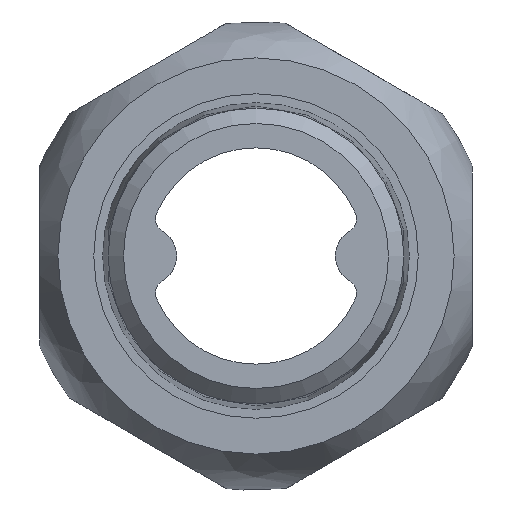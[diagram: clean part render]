
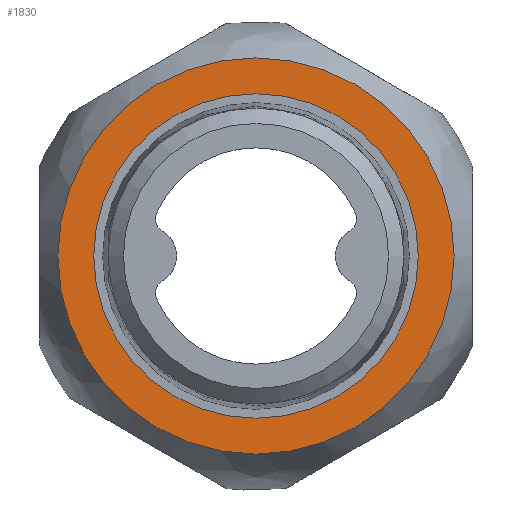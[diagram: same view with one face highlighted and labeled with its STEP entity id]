
A CAD part, left-side view. The second image highlights one B-rep face of the part: STEP entity #1830.
In plain terms, the highlighted planar face has unit normal (-1, 0, 0).
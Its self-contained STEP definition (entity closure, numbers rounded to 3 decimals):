
#1727=CARTESIAN_POINT('',(0.0,13.735,0.0));
#1728=VERTEX_POINT('',#1727);
#1729=CARTESIAN_POINT('',(0.0,0.0,0.0));
#1730=DIRECTION('',(1.0,0.0,0.0));
#1731=DIRECTION('',(0.0,1.0,0.0));
#1732=AXIS2_PLACEMENT_3D('',#1729,#1730,#1731);
#1733=CIRCLE('',#1732,13.735);
#1734=EDGE_CURVE('',#1728,#1728,#1733,.T.);
#1804=CARTESIAN_POINT('',(0.0,11.25,0.0));
#1805=VERTEX_POINT('',#1804);
#1806=CARTESIAN_POINT('',(0.0,0.0,0.0));
#1807=DIRECTION('',(1.0,0.0,0.0));
#1808=DIRECTION('',(0.0,1.0,0.0));
#1809=AXIS2_PLACEMENT_3D('',#1806,#1807,#1808);
#1810=CIRCLE('',#1809,11.25);
#1811=EDGE_CURVE('',#1805,#1805,#1810,.T.);
#1819=CARTESIAN_POINT('',(0.0,12.493,0.0));
#1820=DIRECTION('',(-1.0,0.0,0.0));
#1821=DIRECTION('',(0.0,0.0,1.0));
#1822=AXIS2_PLACEMENT_3D('',#1819,#1820,#1821);
#1823=PLANE('',#1822);
#1824=ORIENTED_EDGE('',*,*,#1734,.F.);
#1825=EDGE_LOOP('',(#1824));
#1826=FACE_OUTER_BOUND('',#1825,.T.);
#1827=ORIENTED_EDGE('',*,*,#1811,.T.);
#1828=EDGE_LOOP('',(#1827));
#1829=FACE_BOUND('',#1828,.T.);
#1830=ADVANCED_FACE('',(#1826,#1829),#1823,.T.);
